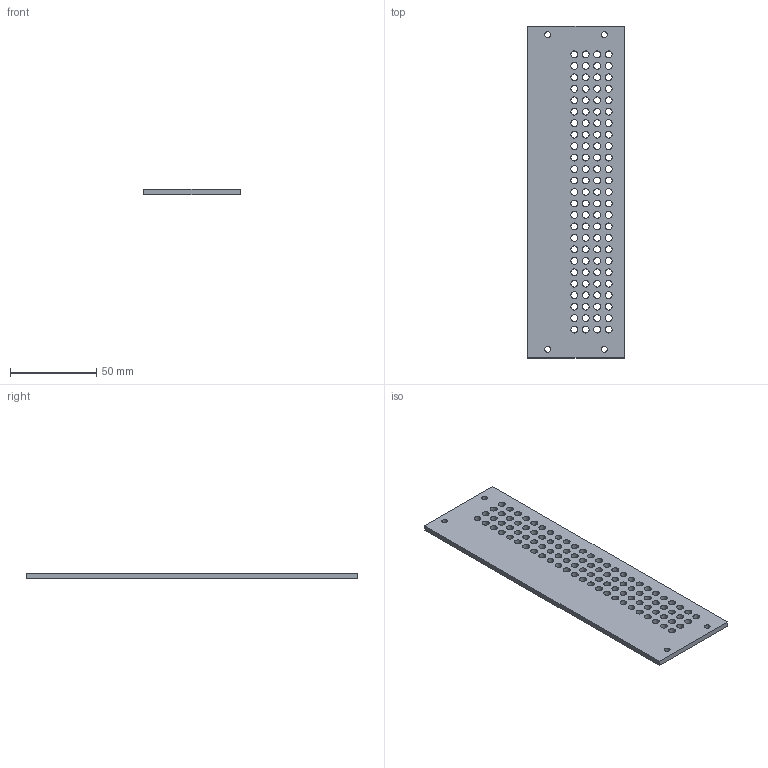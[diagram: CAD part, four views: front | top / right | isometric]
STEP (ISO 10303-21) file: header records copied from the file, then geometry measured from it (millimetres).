
FILE_DESCRIPTION(('FreeCAD Model'),'2;1');
FILE_NAME('Open CASCADE Shape Model','2025-01-25T13:21:49',(''),(''), 'Open CASCADE STEP processor 7.6','FreeCAD','Unknown');
FILE_SCHEMA(('AUTOMOTIVE_DESIGN { 1 0 10303 214 1 1 1 1 }'));
Length unit declared in the file: millimetre
Products named in the file (1): SideL
Bounding box: 56 x 193 x 3 mm (x, y, z)
Volume: 28551.5 mm3; surface area: 24422.6 mm2
Topology: 1 solids, 1 shells, 110 faces, 324 edges, 216 vertices
Faces by surface type: cylinder 104, plane 6
Full cylindrical faces by diameter (mm): 3.3 x4, 4 x100
Entity records: 4234 total; most frequent: DIRECTION 754, CARTESIAN_POINT 651, ORIENTED_EDGE 648, EDGE_CURVE 324, AXIS2_PLACEMENT_3D 319, FACE_BOUND 318, EDGE_LOOP 318, VERTEX_POINT 216
